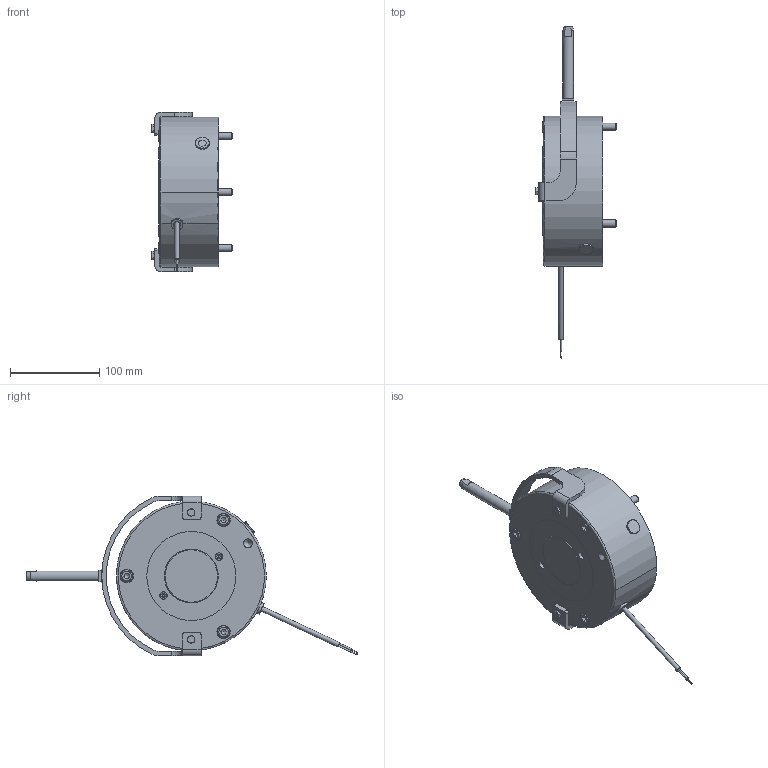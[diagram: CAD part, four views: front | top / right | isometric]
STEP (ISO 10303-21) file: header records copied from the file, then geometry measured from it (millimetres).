
FILE_DESCRIPTION(/* description */ (''),/* implementation_level */ '2;1');
FILE_NAME(/* name */ 'C:\SapWorkDir\Inventor\IP1\ConvertTempPath\5028802_IPT_000.ipt.stp',/* time_stamp */ '2020-09-18T11:38:59+02:00',/* author */ ('STRATE'),/* organization */ (''),/* preprocessor_version */ 'ST-DEVELOPER v17',/* originating_system */ 'Autodesk Inventor 2018',/* authorisation */ '');
FILE_SCHEMA (('AUTOMOTIVE_DESIGN { 1 0 10303 214 3 1 1 }'));
Length unit declared in the file: millimetre
Products named in the file (1): 5028802
Bounding box: 90.6 x 372.51 x 179 mm (x, y, z)
Volume: 1322516.6 mm3; surface area: 210136.2 mm2
Topology: 3 solids, 3 shells, 636 faces, 1740 edges, 1171 vertices
Faces by surface type: cylinder 376, plane 174, cone 63, torus 23
Full cylindrical faces by diameter (mm): 0.01 x1, 1 x2, 1.85 x2, 5 x4, 5.3 x3, 6 x2, 6.3 x2, 6.4 x2, 6.6 x1, 6.9 x2, 7 x6, 7.6 x1, 8 x3, 8.376 x2, 9 x2, 9.2 x2, 9.8 x3, 10 x3, 11 x2, 12 x1, 13 x3, 13.2 x1, 13.9 x3, 15 x5, 16 x1, 52 x1, 59.9 x1, 60 x2, 60.2 x1, 60.5 x1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
Entity records: 22242 total; most frequent: CARTESIAN_POINT 5325, ORIENTED_EDGE 3480, DIRECTION 3344, EDGE_CURVE 1740, AXIS2_PLACEMENT_3D 1357, VERTEX_POINT 1171, EDGE_LOOP 731, CIRCLE 720
